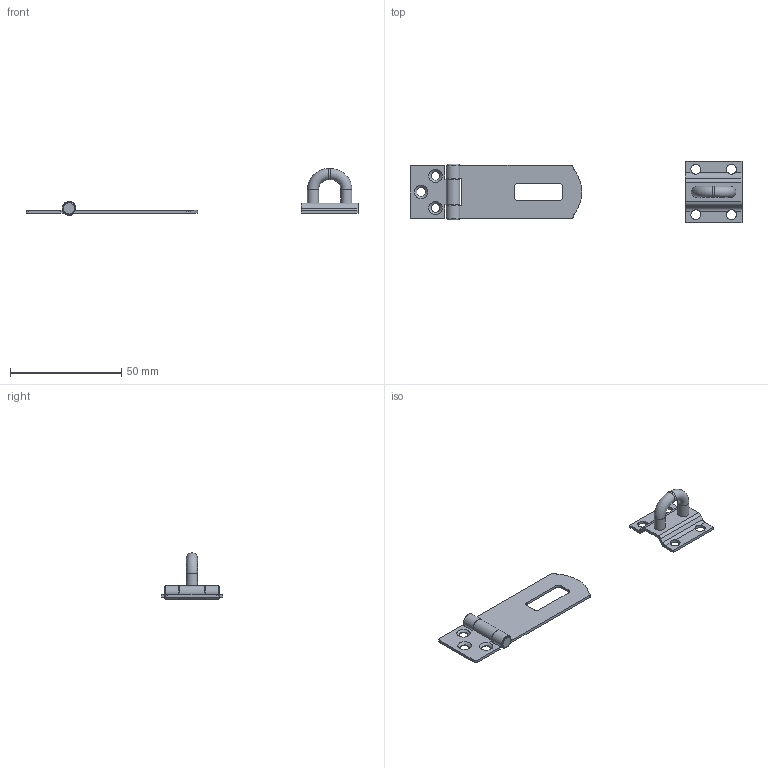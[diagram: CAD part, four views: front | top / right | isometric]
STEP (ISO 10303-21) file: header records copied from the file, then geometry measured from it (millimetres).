
FILE_DESCRIPTION(/* description */ (''),/* implementation_level */ '2;1');
FILE_NAME(/* name */ '\\NAS\db20\GT2-2\DR_GT2-2.stp',/* time_stamp */ '2017-08-31T11:42:53+09:00',/* author */ ('user'),/* organization */ (''),/* preprocessor_version */ 'ST-DEVELOPER v15.6',/* originating_system */ 'Autodesk Inventor 2015',/* authorisation */ '');
FILE_SCHEMA (('AUTOMOTIVE_DESIGN { 1 0 10303 214 3 1 1 }'));
Length unit declared in the file: millimetre
Products named in the file (4): DR_GT2-2-1; DR_GT2-2-2; DR_GT2-2-B; DR_GT2-2
Bounding box: 149.38 x 27.5 x 20.99 mm (x, y, z)
Volume: 4083.6 mm3; surface area: 6671 mm2
Topology: 4 solids, 4 shells, 96 faces, 268 edges, 176 vertices
Faces by surface type: cylinder 46, plane 43, torus 4, cone 3
Full cylindrical faces by diameter (mm): 3.8 x1, 4 x3, 4.5 x4, 5 x5
Entity records: 3126 total; most frequent: CARTESIAN_POINT 569, DIRECTION 538, ORIENTED_EDGE 482, EDGE_CURVE 241, AXIS2_PLACEMENT_3D 202, VERTEX_POINT 169, LINE 134, VECTOR 134
